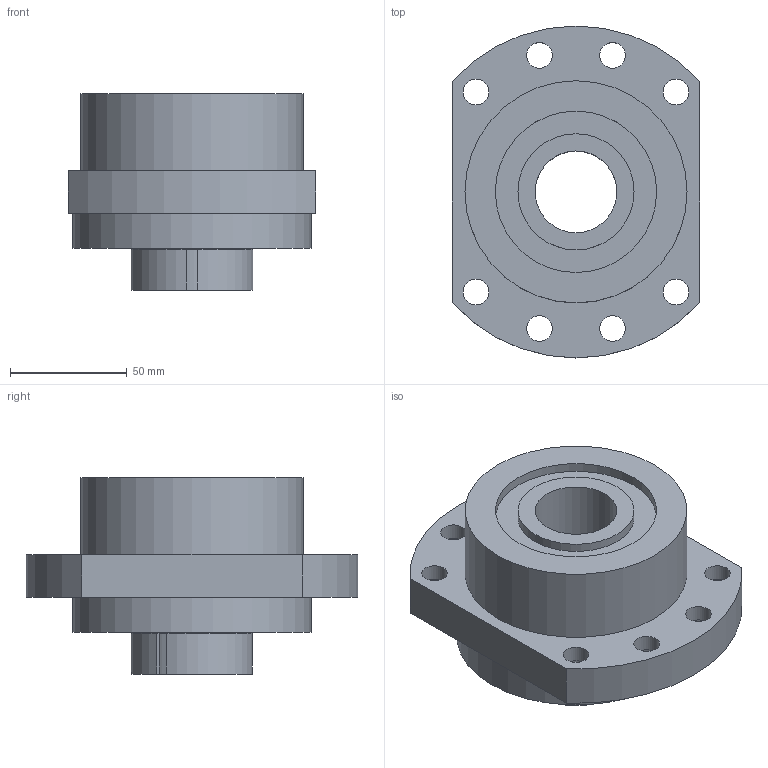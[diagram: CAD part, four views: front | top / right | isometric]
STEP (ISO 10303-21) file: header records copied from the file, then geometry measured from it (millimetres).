
FILE_DESCRIPTION(/* description */ (''),/* implementation_level */ '2;1');
FILE_NAME(/* name */ 'C:\Users\tenki620635\Desktop\官網\圖面\軸承座\3D\setp檔\WBK35 DF.stp',/* time_stamp */ '2020-12-21T10:00:37+08:00',/* author */ ('tenki620635'),/* organization */ (''),/* preprocessor_version */ 'ST-DEVELOPER v15.2',/* originating_system */ 'Autodesk Inventor 2014',/* authorisation */ '');
FILE_SCHEMA (('AUTOMOTIVE_DESIGN { 1 0 10303 214 3 1 1 }'));
Length unit declared in the file: millimetre
Products named in the file (1): WBK35 DF-Atype
Bounding box: 106 x 142 x 84 mm (x, y, z)
Volume: 515172.9 mm3; surface area: 68730.4 mm2
Topology: 1 solids, 1 shells, 58 faces, 120 edges, 80 vertices
Faces by surface type: cylinder 32, plane 26
Full cylindrical faces by diameter (mm): 11 x8, 17.5 x8, 35 x1, 47 x1, 49.7 x2, 69 x2, 95 x1, 102 x1
Entity records: 1505 total; most frequent: DIRECTION 278, CARTESIAN_POINT 235, ORIENTED_EDGE 192, AXIS2_PLACEMENT_3D 123, EDGE_LOOP 116, EDGE_CURVE 96, VERTEX_POINT 80, FACE_BOUND 66
